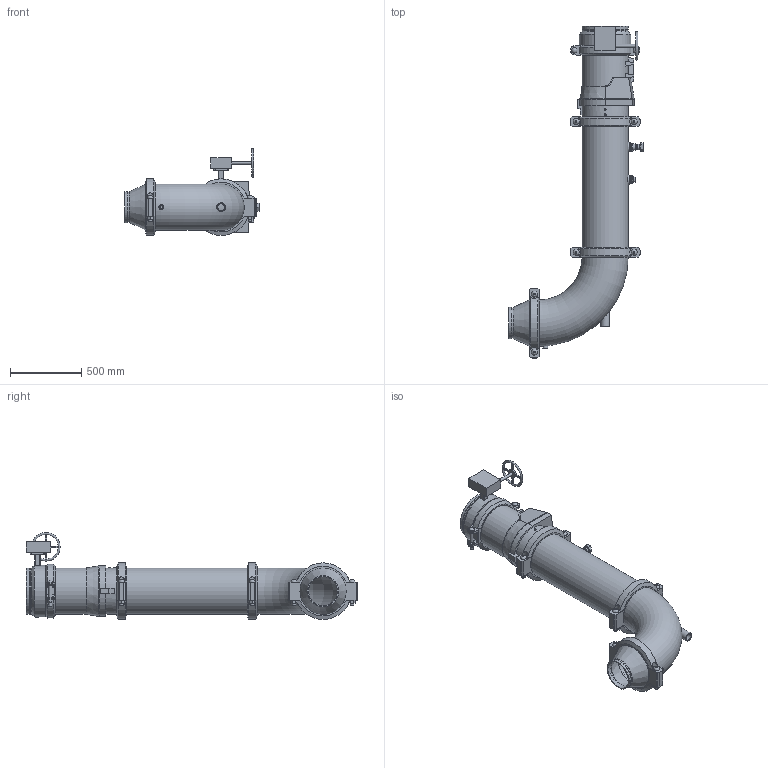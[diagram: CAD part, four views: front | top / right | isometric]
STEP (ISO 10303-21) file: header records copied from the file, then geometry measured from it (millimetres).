
FILE_DESCRIPTION(/* description */ ('VIC DVI PUMP DROP HORZ S/380G (OGS)','CAx-IF Rec.Pracs.---Representation and Presentation of Product Manufacturing Information (PMI)---4.0---2014-10-13'),/* implementation_level */ '2;1');
FILE_NAME(/* name */ 'C:\Users\Vjadhav\AppData\Roaming\Autodesk\ApplicationPlugins\Victaulic.Temp\A853\Victaulic_IPS_Horizontal DVI_Series 380G (OGS)_924 (1.25)_12.0x08.0 (300x200).stp',/* time_stamp */ '2021-07-13T16:47:10+05:00',/* author */ ('Vjadhav'),/* organization */ ('Victaulic'),/* preprocessor_version */ 'ST-DEVELOPER v17.2',/* originating_system */ 'Autodesk Inventor 2019',/* authorisation */ '');
FILE_SCHEMA (('AP242_MANAGED_MODEL_BASED_3D_ENGINEERING_MIM_LF { 1 0 10303 442 1 1 4 }'));
Length unit declared in the file: inch
Products named in the file (10): 380G_924 (1.25)-12.0x08.0; Pipe-12.0; 107N-12.0; 924-10.0x01.25; 923-10.0x0.75; 779-12.0; 761-12.0; 077-12.0; 100G-12.0; 050-12.0x08.0
Assembly tree (11 placements, depth 2):
  380G_924 (1.25)-12.0x08.0
    Pipe-12.0
    107N-12.0
    924-10.0x01.25
    923-10.0x0.75
    779-12.0
    761-12.0
    077-12.0  x3
    100G-12.0
    050-12.0x08.0
Bounding box: 941.26 x 2325.31 x 609.46 mm (x, y, z)
Volume: 46417902.3 mm3; surface area: 6810308.3 mm2
Topology: 11 solids, 19 shells, 633 faces, 1569 edges, 1062 vertices
Faces by surface type: plane 362, cylinder 211, bspline 24, cone 24, torus 10, sphere 2
Full cylindrical faces by diameter (mm): 10.922 x4, 13.716 x4, 20.066 x1, 20.93 x1, 21.336 x2, 22.225 x4, 22.86 x1, 25.4 x12, 26.67 x4, 27.432 x6, 31.75 x1, 34.29 x1, 37.694 x2, 38.608 x1, 42.164 x1, 45.974 x4, 48.26 x1, 48.514 x1, 55.626 x2, 60.96 x1, 63.079 x1, 70.104 x1, 76.2 x1, 202.717 x1, 214.401 x1, 219.075 x2, 303.225 x2, 304.8 x4, 311.15 x1, 314.96 x3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
Entity records: 17688 total; most frequent: CARTESIAN_POINT 4048, DIRECTION 2785, ORIENTED_EDGE 2558, EDGE_CURVE 1279, AXIS2_PLACEMENT_3D 1063, VERTEX_POINT 866, LINE 659, VECTOR 659
